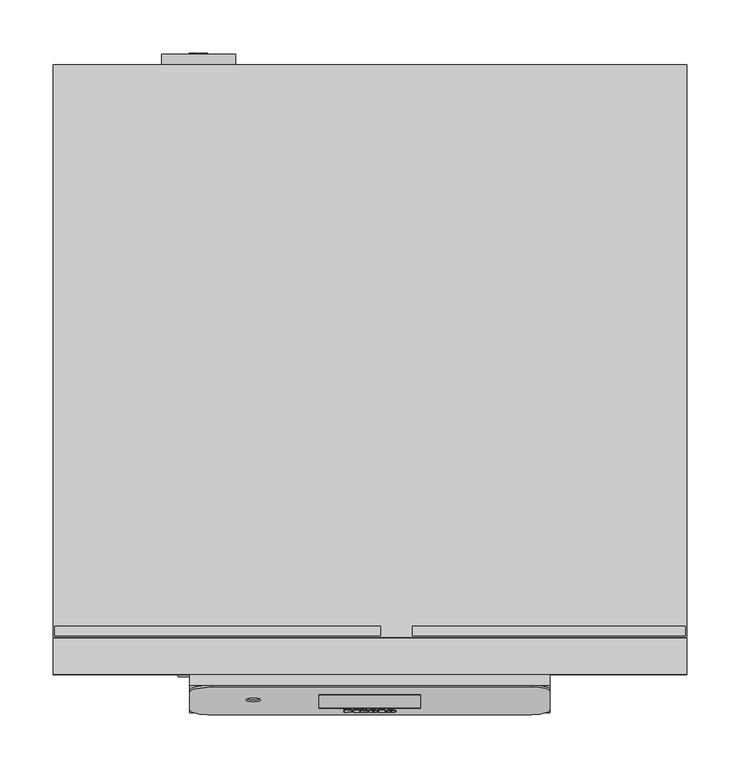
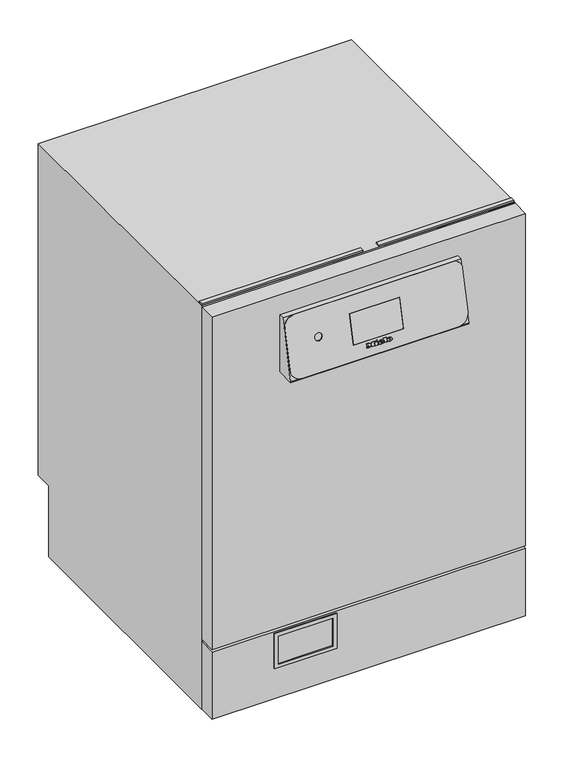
"""IFC4 building model written with IfcOpenShell, lengths in millimetres: proxy geometry, 12065180_DAC_PFD402U_SST : 61040230_DAC_12065180_PFD402U_SST."""

from ifc_helpers import new_model, si_unit, point, frame, frame_2d, origin, origin_with_axes, place, context, project, spatial, polyline, circle_curve, ellipse_curve, trimmed, segment, composite_curve, outline, extrude, source, transform, mapped, element, save
from ifc_brep_helpers import plane_surface, cylinder_surface, revolved_surface, extruded_surface, advanced_brep


def specialty_equipment_acc9bd21(model_context):
    return source(origin(), model_context, "Body", "SolidModel", [
        advanced_brep(
        [(19.2098411, -35.3170778, 679.7116041), (19.2098411, -35.1353173, 680.4988951), (24.5618411, -35.1353173, 680.4988951), (15.2498411, -35.1353173, 680.4988951), (17.4498411, -35.743585, 677.8641985), (24.4258411, -35.3170778, 679.7116041), (22.0098411, -35.3170778, 679.7116041), (20.1058411, -35.5186339, 678.8385685), (19.2098411, -34.9049675, 681.4966501), (19.2098411, -34.7088101, 682.3463008), (20.5778411, -34.7088101, 682.3463008), (20.5778411, -34.9049675, 681.4966501), (19.2098411, -34.3427077, 679.4866531), (20.1058411, -34.5442639, 678.6136175), (22.0098411, -34.3427077, 679.4866531), (24.4258411, -34.3427077, 679.4866531), (17.4498411, -34.7692149, 677.6392474), (15.2498411, -34.1609473, 680.2739441), (24.5618411, -34.1609473, 680.2739441), (19.2098411, -34.1609473, 680.2739441), (19.2098411, -33.9305974, 681.271699), (20.5778411, -33.9305974, 681.271699), (20.5778411, -33.7344401, 682.1213497), (19.2098411, -33.7344401, 682.1213497)],
        [
            (0, 1),
            (1, 2),
            (2, 3, ellipse_curve(frame((19.9058411, -35.1353173, 680.4988951), z_axis=(0.0, -0.9743700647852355, 0.22495105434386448), x_axis=(-1.0, 0.0, 0.0)), 4.656, 3.848)),
            (3, 4, circle_curve(frame((18.3458847, -35.0741307, 680.7639238), z_axis=(0.0, -0.9743700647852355, 0.22495105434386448), x_axis=(0.0, -0.22495105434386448, -0.9743700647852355)), 3.1079688)),
            (4, 5, circle_curve(frame((19.8126347, -34.599034, 682.8217934), z_axis=(0.0, -0.9743700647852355, 0.22495105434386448), x_axis=(0.0, -0.22495105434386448, -0.9743700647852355)), 5.6098607)),
            (5, 6),
            (6, 7, circle_curve(frame((20.4968999, -35.1497142, 680.4365354), z_axis=(0.0, 0.9743700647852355, -0.22495105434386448), x_axis=(0.0, -0.22495105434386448, -0.9743700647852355)), 1.6859795)),
            (7, 0, circle_curve(frame((20.1058411, -35.3170778, 679.7116041), z_axis=(0.0, 0.9743700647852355, -0.22495105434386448), x_axis=(0.0, -0.22495105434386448, -0.9743700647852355)), 0.896)),
            (8, 9),
            (9, 10, circle_curve(frame((19.8938411, -34.7088101, 682.3463008), z_axis=(0.0, 0.9743700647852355, -0.22495105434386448), x_axis=(0.0, -0.22495105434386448, -0.9743700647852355)), 0.684)),
            (10, 11),
            (11, 8),
            (12, 13, circle_curve(frame((20.1058411, -34.3427077, 679.4866531), z_axis=(0.0, -0.9743700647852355, 0.22495105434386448), x_axis=(0.0, -0.22495105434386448, -0.9743700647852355)), 0.896)),
            (13, 14, circle_curve(frame((20.4968999, -34.1753441, 680.2115844), z_axis=(0.0, -0.9743700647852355, 0.22495105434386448), x_axis=(0.0, -0.22495105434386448, -0.9743700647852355)), 1.6859795)),
            (14, 15),
            (15, 16, circle_curve(frame((19.8126347, -33.624664, 682.5968423), z_axis=(0.0, 0.9743700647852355, -0.22495105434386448), x_axis=(0.0, -0.22495105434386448, -0.9743700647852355)), 5.6098607)),
            (16, 17, circle_curve(frame((18.3458847, -34.0997606, 680.5389727), z_axis=(0.0, 0.9743700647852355, -0.22495105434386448), x_axis=(0.0, -0.22495105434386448, -0.9743700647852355)), 3.1079688)),
            (17, 18, ellipse_curve(frame((19.9058411, -34.1609473, 680.2739441), z_axis=(0.0, 0.9743700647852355, -0.22495105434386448), x_axis=(-1.0, 0.0, 0.0)), 4.656, 3.848)),
            (18, 19),
            (19, 12),
            (20, 21),
            (21, 22),
            (22, 23, circle_curve(frame((19.8938411, -33.7344401, 682.1213497), z_axis=(0.0, -0.9743700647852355, 0.22495105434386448), x_axis=(0.0, -0.22495105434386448, -0.9743700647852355)), 0.684)),
            (23, 20),
            (0, 12),
            (19, 1),
            (18, 2),
            (5, 15),
            (14, 6),
            (17, 3),
            (13, 7),
            (16, 4),
            (8, 20),
            (23, 9),
            (22, 10),
            (21, 11),
        ],
        [
            plane_surface(frame((19.2098411, -35.1353173, 680.4988951), z_axis=(0.0, -0.9743700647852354, 0.22495105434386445), x_axis=(0.0, 0.22495105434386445, 0.9743700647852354))),
            plane_surface(frame((19.2098411, -34.1609473, 680.2739441), z_axis=(0.0, 0.9743700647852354, -0.22495105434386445), x_axis=(0.0, -0.22495105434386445, -0.9743700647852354))),
            plane_surface(frame((19.2098411, -35.3170778, 679.7116041), z_axis=(1.0, 0.0, 0.0), x_axis=(0.0, 0.9743700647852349, -0.22495105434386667))),
            plane_surface(frame((19.2098411, -35.1353173, 680.4988951), z_axis=(0.0, -0.22495105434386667, -0.9743700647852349), x_axis=(0.0, 0.9743700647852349, -0.22495105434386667))),
            plane_surface(frame((24.4258411, -35.3170778, 679.7116041), z_axis=(0.0, 0.22495105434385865, 0.9743700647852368), x_axis=(0.0, 0.9743700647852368, -0.22495105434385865))),
            extruded_surface(trimmed(ellipse_curve(frame((19.9058411, -33.1865772, 680.048993), z_axis=(0.0, -0.9743700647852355, 0.22495105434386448), x_axis=(-1.0, 0.0, 0.0)), 4.656, 3.848), [point((24.5618411, -33.1865772, 680.048993))], [point((15.2498411, -33.1865772, 680.048993))], True, "CARTESIAN"), (0.0, -0.9743700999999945, 0.2249510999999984), 1.0000000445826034),
            revolved_surface(polyline([(20.4968999, -34.55460696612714, 678.5688164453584), (20.4968999, -35.52897707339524, 678.7937675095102)]), (20.4968999, -34.1753441, 680.2115844), (0.0, 0.9743700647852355, -0.22495105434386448)),
            revolved_surface(polyline([(20.1058411, -34.544263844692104, 678.6136175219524), (20.1058411, -35.51863393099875, 678.8385685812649)]), (20.1058411, -34.3427077, 679.4866531), (0.0, 0.9743700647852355, -0.22495105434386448)),
            cylinder_surface(frame((18.3458847, -34.0997606, 680.5389727), z_axis=(0.0, -0.9743700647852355, 0.22495105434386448), x_axis=(0.0, -0.22495105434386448, -0.9743700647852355)), 3.1079688),
            cylinder_surface(frame((19.8126347, -33.624664, 682.5968423), z_axis=(0.0, -0.9743700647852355, 0.22495105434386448), x_axis=(0.0, -0.22495105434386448, -0.9743700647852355)), 5.6098607),
            plane_surface(frame((19.2098411, -34.9049675, 681.4966501), z_axis=(1.0, 0.0, 0.0), x_axis=(0.0, 0.9743700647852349, -0.22495105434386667))),
            revolved_surface(polyline([(19.8938411, -33.8883066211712, 681.4548805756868), (19.8938411, -34.8626766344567, 681.6798316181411)]), (19.8938411, -33.7344401, 682.1213497), (0.0, 0.9743700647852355, -0.22495105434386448)),
            plane_surface(frame((20.5778411, -34.7088101, 682.3463008), z_axis=(-1.0, 0.0, 0.0), x_axis=(0.0, 0.9743700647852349, -0.22495105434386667))),
            plane_surface(frame((20.5778411, -34.9049675, 681.4966501), z_axis=(0.0, 0.22495105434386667, 0.9743700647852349), x_axis=(0.0, 0.9743700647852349, -0.22495105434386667))),
        ],
        [
            (0, [[1, 2, 3, 4, 5, 6, 7, 8], [9, 10, 11, 12]]),
            (1, [[13, 14, 15, 16, 17, 18, 19, 20], [21, 22, 23, 24]]),
            (2, [[-1, 25, -20, 26]]),
            (3, [[-2, -26, -19, 27]]),
            (4, [[-6, 28, -15, 29]]),
            (5, [[-3, -27, -18, 30]]),
            (6, [[-7, -29, -14, 31]]),
            (7, [[-8, -31, -13, -25]]),
            (8, [[-4, -30, -17, 32]]),
            (9, [[-5, -32, -16, -28]]),
            (10, [[-9, 33, -24, 34]]),
            (11, [[-10, -34, -23, 35]]),
            (12, [[-11, -35, -22, 36]]),
            (13, [[-12, -36, -21, -33]]),
        ],
    ),
        advanced_brep(
        [(2.5138411, -35.3170778, 679.7116041), (2.5138411, -35.1353173, 680.4988951), (7.8658411, -35.1353173, 680.4988951), (-1.4461589, -35.1353173, 680.4988951), (0.7538411, -35.743585, 677.8641985), (7.7298411, -35.3170778, 679.7116041), (5.3138411, -35.3170778, 679.7116041), (3.4098411, -35.5186339, 678.8385685), (2.5138411, -34.9049675, 681.4966501), (2.5138411, -34.7088101, 682.3463008), (3.8818411, -34.7088101, 682.3463008), (3.8818411, -34.9049675, 681.4966501), (2.5138411, -34.3427077, 679.4866531), (3.4098411, -34.5442639, 678.6136175), (5.3138411, -34.3427077, 679.4866531), (7.7298411, -34.3427077, 679.4866531), (0.7538411, -34.7692149, 677.6392474), (-1.4461589, -34.1609473, 680.2739441), (7.8658411, -34.1609473, 680.2739441), (2.5138411, -34.1609473, 680.2739441), (2.5138411, -33.9305974, 681.271699), (3.8818411, -33.9305974, 681.271699), (3.8818411, -33.7344401, 682.1213497), (2.5138411, -33.7344401, 682.1213497)],
        [
            (0, 1),
            (1, 2),
            (2, 3, ellipse_curve(frame((3.2098411, -35.1353173, 680.4988951), z_axis=(0.0, -0.9743700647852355, 0.22495105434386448), x_axis=(-1.0, 0.0, 0.0)), 4.656, 3.848)),
            (3, 4, circle_curve(frame((1.6498847, -35.0741307, 680.7639238), z_axis=(0.0, -0.9743700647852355, 0.22495105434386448), x_axis=(0.0, -0.22495105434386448, -0.9743700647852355)), 3.1079688)),
            (4, 5, circle_curve(frame((3.1166347, -34.599034, 682.8217934), z_axis=(0.0, -0.9743700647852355, 0.22495105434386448), x_axis=(0.0, -0.22495105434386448, -0.9743700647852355)), 5.6098607)),
            (5, 6),
            (6, 7, circle_curve(frame((3.8008999, -35.1497142, 680.4365354), z_axis=(0.0, 0.9743700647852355, -0.22495105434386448), x_axis=(0.0, -0.22495105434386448, -0.9743700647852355)), 1.6859795)),
            (7, 0, circle_curve(frame((3.4098411, -35.3170778, 679.7116041), z_axis=(0.0, 0.9743700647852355, -0.22495105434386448), x_axis=(0.0, -0.22495105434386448, -0.9743700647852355)), 0.896)),
            (8, 9),
            (9, 10, circle_curve(frame((3.1978411, -34.7088101, 682.3463008), z_axis=(0.0, 0.9743700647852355, -0.22495105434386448), x_axis=(0.0, -0.22495105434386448, -0.9743700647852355)), 0.684)),
            (10, 11),
            (11, 8),
            (12, 13, circle_curve(frame((3.4098411, -34.3427077, 679.4866531), z_axis=(0.0, -0.9743700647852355, 0.22495105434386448), x_axis=(0.0, -0.22495105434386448, -0.9743700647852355)), 0.896)),
            (13, 14, circle_curve(frame((3.8008999, -34.1753441, 680.2115844), z_axis=(0.0, -0.9743700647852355, 0.22495105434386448), x_axis=(0.0, -0.22495105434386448, -0.9743700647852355)), 1.6859795)),
            (14, 15),
            (15, 16, circle_curve(frame((3.1166347, -33.624664, 682.5968423), z_axis=(0.0, 0.9743700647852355, -0.22495105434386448), x_axis=(0.0, -0.22495105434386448, -0.9743700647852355)), 5.6098607)),
            (16, 17, circle_curve(frame((1.6498847, -34.0997606, 680.5389727), z_axis=(0.0, 0.9743700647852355, -0.22495105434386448), x_axis=(0.0, -0.22495105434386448, -0.9743700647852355)), 3.1079688)),
            (17, 18, ellipse_curve(frame((3.2098411, -34.1609473, 680.2739441), z_axis=(0.0, 0.9743700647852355, -0.22495105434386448), x_axis=(-1.0, 0.0, 0.0)), 4.656, 3.848)),
            (18, 19),
            (19, 12),
            (20, 21),
            (21, 22),
            (22, 23, circle_curve(frame((3.1978411, -33.7344401, 682.1213497), z_axis=(0.0, -0.9743700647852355, 0.22495105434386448), x_axis=(0.0, -0.22495105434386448, -0.9743700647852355)), 0.684)),
            (23, 20),
            (0, 12),
            (19, 1),
            (18, 2),
            (5, 15),
            (14, 6),
            (17, 3),
            (13, 7),
            (16, 4),
            (8, 20),
            (23, 9),
            (22, 10),
            (21, 11),
        ],
        [
            plane_surface(frame((2.5138411, -35.1353173, 680.4988951), z_axis=(0.0, -0.9743700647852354, 0.22495105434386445), x_axis=(0.0, 0.22495105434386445, 0.9743700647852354))),
            plane_surface(frame((2.5138411, -34.1609473, 680.2739441), z_axis=(0.0, 0.9743700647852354, -0.22495105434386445), x_axis=(0.0, -0.22495105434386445, -0.9743700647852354))),
            plane_surface(frame((2.5138411, -35.3170778, 679.7116041), z_axis=(1.0000000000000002, 0.0, 0.0), x_axis=(0.0, 0.9743700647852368, -0.22495105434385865))),
            plane_surface(frame((2.5138411, -35.1353173, 680.4988951), z_axis=(0.0, -0.22495105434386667, -0.9743700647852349), x_axis=(0.0, 0.9743700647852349, -0.22495105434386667))),
            plane_surface(frame((7.7298411, -35.3170778, 679.7116041), z_axis=(0.0, 0.22495105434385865, 0.9743700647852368), x_axis=(0.0, 0.9743700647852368, -0.22495105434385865))),
            extruded_surface(trimmed(ellipse_curve(frame((3.2098411, -33.1865772, 680.048993), z_axis=(0.0, -0.9743700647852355, 0.22495105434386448), x_axis=(-1.0, 0.0, 0.0)), 4.656, 3.848), [point((7.8658411, -33.1865772, 680.048993))], [point((-1.4461589, -33.1865772, 680.048993))], True, "CARTESIAN"), (0.0, -0.9743700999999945, 0.2249510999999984), 1.0000000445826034),
            revolved_surface(polyline([(3.8008999, -34.55460696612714, 678.5688164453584), (3.8008999, -35.52897707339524, 678.7937675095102)]), (3.8008999, -34.1753441, 680.2115844), (0.0, 0.9743700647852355, -0.22495105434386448)),
            revolved_surface(polyline([(3.4098411, -34.544263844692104, 678.6136175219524), (3.4098411, -35.51863393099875, 678.8385685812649)]), (3.4098411, -34.3427077, 679.4866531), (0.0, 0.9743700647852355, -0.22495105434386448)),
            cylinder_surface(frame((1.6498847, -34.0997606, 680.5389727), z_axis=(0.0, -0.9743700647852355, 0.22495105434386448), x_axis=(0.0, -0.22495105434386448, -0.9743700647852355)), 3.1079688),
            cylinder_surface(frame((3.1166347, -33.624664, 682.5968423), z_axis=(0.0, -0.9743700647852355, 0.22495105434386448), x_axis=(0.0, -0.22495105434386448, -0.9743700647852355)), 5.6098607),
            plane_surface(frame((2.5138411, -34.9049675, 681.4966501), z_axis=(1.0, 0.0, 0.0), x_axis=(0.0, 0.9743700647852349, -0.22495105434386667))),
            revolved_surface(polyline([(3.1978411, -33.8883066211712, 681.4548805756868), (3.1978411, -34.8626766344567, 681.6798316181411)]), (3.1978411, -33.7344401, 682.1213497), (0.0, 0.9743700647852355, -0.22495105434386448)),
            plane_surface(frame((3.8818411, -34.7088101, 682.3463008), z_axis=(-1.0, 0.0, 0.0), x_axis=(0.0, 0.9743700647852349, -0.22495105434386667))),
            plane_surface(frame((3.8818411, -34.9049675, 681.4966501), z_axis=(0.0, 0.22495105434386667, 0.9743700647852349), x_axis=(0.0, 0.9743700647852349, -0.22495105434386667))),
        ],
        [
            (0, [[1, 2, 3, 4, 5, 6, 7, 8], [9, 10, 11, 12]]),
            (1, [[13, 14, 15, 16, 17, 18, 19, 20], [21, 22, 23, 24]]),
            (2, [[-1, 25, -20, 26]]),
            (3, [[-2, -26, -19, 27]]),
            (4, [[-6, 28, -15, 29]]),
            (5, [[-3, -27, -18, 30]]),
            (6, [[-7, -29, -14, 31]]),
            (7, [[-8, -31, -13, -25]]),
            (8, [[-4, -30, -17, 32]]),
            (9, [[-5, -32, -16, -28]]),
            (10, [[-9, 33, -24, 34]]),
            (11, [[-10, -34, -23, 35]]),
            (12, [[-11, -35, -22, 36]]),
            (13, [[-12, -36, -21, -33]]),
        ],
    ),
        extrude(outline(polyline([(0.0, 0.0), (-0.0109087, -2.9993294), (-1.4390415, -2.9920868), (-1.4315307, 0.0), (0.0, 0.0)])), frame((-6.2301589, -33.0757834, 684.9743053), z_axis=(0.0, -0.9743700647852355, 0.2249510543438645), x_axis=(-0.42472021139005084, 0.20365373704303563, 0.8821212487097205)), (0.0, 0.0, 1.0), 1.0),
        extrude(outline(polyline([(-0.4933908, 2.4141097), (-2.7800844, -2.4601583), (-7.0459742, -0.4588767), (-7.4401146, -1.2990179), (-8.6568709, -0.728194), (-5.9760369, 4.9862153), (-4.7592806, 4.4153913), (-5.1636142, 3.5535222), (-2.1941493, 2.16044), (-1.7898157, 3.022309), (-0.4933908, 2.4141097)])), frame((-6.2301589, -33.0757834, 684.9743053), z_axis=(0.0, -0.9743700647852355, 0.2249510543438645), x_axis=(-0.42472021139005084, 0.20365373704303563, 0.8821212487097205)), (0.0, 0.0, 1.0), 1.0),
        extrude(outline(polyline([(0.0, 0.0), (0.0, -1.3039999), (-5.504, -1.3039999), (-5.504, 5.352), (-6.488, 5.352), (-6.488, 6.696), (0.0, 6.696), (0.0, 5.352), (-0.96, 5.352), (-0.96, 0.0), (0.0, 0.0)])), frame((8.3138411, -33.2629427, 684.1636294), z_axis=(0.0, -0.9743700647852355, 0.22495105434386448), x_axis=(-1.0, 0.0, 0.0)), (0.0, 0.0, 1.0), 1.0),
        extrude(outline(polyline([(0.0, 0.0), (0.0, -1.3039999), (-5.576, -1.3039999), (-7.92, 1.6960001), (-10.256, -1.3039999), (-15.128, -1.3039999), (-15.128, 0.0), (-14.112, 0.0), (-14.112, 5.352), (-15.128, 5.352), (-15.128, 6.696), (-8.744, 6.696), (-8.744, 5.352), (-9.728, 5.352), (-9.728, 1.8807777), (-6.136, 6.696), (-2.56, 1.9488752), (-2.56, 5.352), (-3.52, 5.352), (-3.52, 6.696), (0.0, 6.696), (0.0, 5.352), (-0.968, 5.352), (-0.968, 0.0), (0.0, 0.0)])), frame((-24.1501589, -33.2629427, 684.1636294), z_axis=(0.0, -0.9743700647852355, 0.22495105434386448), x_axis=(-1.0, 0.0, 0.0)), (0.0, 0.0, 1.0), 1.0),
        extrude(outline(polyline([(-0.1038681, 775.5857792), (-0.1038681, 660.0), (-36.1981904, 660.0), (-36.1981904, 662.5588517), (-10.1038681, 775.5857792), (-0.1038681, 775.5857792)])), frame((-169.8831565, 0.0, 0.0), z_axis=(1.0, 0.0, 0.0), x_axis=(0.0, 1.0, 0.0)), (0.0, 0.0, 1.0), 339.766313),
        extrude(outline(polyline([(137.0, -180.8556958), (66.1019991, -180.8556958), (66.1019991, -62.1493684), (137.0, -62.1493684), (137.0, -180.8556958)]), holes=[polyline([(129.5988213, -69.1491757), (73.0575068, -69.1491757), (73.0575068, -173.1990884), (129.5988213, -173.1990884), (129.5988213, -69.1491757)])]), frame((0.0, -2.0, 0.0), z_axis=(0.0, 1.0, 0.0), x_axis=(0.0, 0.0, 1.0)), (0.0, 0.0, 1.0), 2.0),
        extrude(outline(polyline([(299.0, 34.0), (299.0, 0.0), (-299.0, 0.0), (-299.0, 34.0), (299.0, 34.0)])), frame((0.0, 0.0, 4.5), z_axis=(0.0, 0.0, 1.0), x_axis=(1.0, 0.0, 0.0)), (0.0, 0.0, 1.0), 135.5),
        extrude(outline(polyline([(299.0, 34.0), (299.0, 0.0), (-299.0, 0.0), (-299.0, 34.0), (299.0, 34.0)])), frame((0.0, 0.0, 145.0), z_axis=(0.0, 0.0, 1.0), x_axis=(1.0, 0.0, 0.0)), (0.0, 0.0, 1.0), 670.0),
        advanced_brep(
        [(153.3281651, -12.0526082, 776.0356813), (-148.8831565, -12.0526082, 776.0356813), (-169.8831565, -16.7765804, 755.57391), (-169.8831565, -33.4229584, 683.4705252), (-148.8831565, -38.1469305, 663.0087538), (148.8831565, -38.1469305, 663.0087538), (169.8831565, -33.4229584, 683.4705252), (169.8831565, -15.776671, 759.9049933), (-102.8831565, -24.0088923, 724.2473253), (-116.8831565, -24.0088923, 724.2473253), (48.0, -18.9868916, 746.0), (48.0, -31.9155103, 690.0), (-48.0, -31.9155103, 690.0), (-48.0, -18.9868916, 746.0), (153.3281651, -10.1038681, 775.5857792), (169.8831565, -13.8279308, 759.4550912), (169.8831565, -31.4742182, 683.0206231), (148.8831565, -36.1981904, 662.5588517), (-148.8831565, -36.1981904, 662.5588517), (-169.8831565, -31.4742182, 683.0206231), (-169.8831565, -14.8278402, 755.1240079), (-148.8831565, -10.1038681, 775.5857792), (48.0, -29.8629021, 690.0), (48.0, -16.9342834, 746.0), (-48.0, -16.9342834, 746.0), (-48.0, -29.8629021, 690.0), (-116.8831565, -22.4281396, 723.8823798), (-102.8831565, -22.4281396, 723.8823798)],
        [
            (0, 1),
            (1, 2, circle_curve(frame((-148.8831565, -16.7765804, 755.57391), z_axis=(0.0, -0.9743700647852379, 0.22495105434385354), x_axis=(1.0, 0.0, 0.0)), 21.0)),
            (2, 3),
            (3, 4, circle_curve(frame((-148.8831565, -33.4229584, 683.4705252), z_axis=(0.0, -0.9743700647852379, 0.22495105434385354), x_axis=(1.0, 0.0, 0.0)), 21.0)),
            (4, 5),
            (5, 6, circle_curve(frame((148.8831565, -33.4229584, 683.4705252), z_axis=(0.0, -0.9743700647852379, 0.22495105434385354), x_axis=(1.0, 0.0, 0.0)), 21.0)),
            (6, 7),
            (7, 0, circle_curve(frame((153.3281651, -15.776671, 759.9049933), z_axis=(0.0, -0.9743700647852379, 0.22495105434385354), x_axis=(1.0, 0.0, 0.0)), 16.5549913)),
            (8, 9, circle_curve(frame((-109.8831565, -24.0088923, 724.2473253), z_axis=(0.0, 0.9743700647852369, -0.22495105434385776), x_axis=(1.0, 0.0, 0.0)), 7.0)),
            (9, 8, circle_curve(frame((-109.8831565, -24.0088923, 724.2473253), z_axis=(0.0, 0.9743700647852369, -0.22495105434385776), x_axis=(1.0, 0.0, 0.0)), 7.0)),
            (10, 11),
            (11, 12),
            (12, 13),
            (13, 10),
            (14, 15, circle_curve(frame((153.3281651, -13.8279308, 759.4550912), z_axis=(0.0, 0.9743700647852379, -0.22495105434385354), x_axis=(1.0, 0.0, 0.0)), 16.5549913)),
            (15, 16),
            (16, 17, circle_curve(frame((148.8831565, -31.4742182, 683.0206231), z_axis=(0.0, 0.9743700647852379, -0.22495105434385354), x_axis=(1.0, 0.0, 0.0)), 21.0)),
            (17, 18),
            (18, 19, circle_curve(frame((-148.8831565, -31.4742182, 683.0206231), z_axis=(0.0, 0.9743700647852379, -0.22495105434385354), x_axis=(1.0, 0.0, 0.0)), 21.0)),
            (19, 20),
            (20, 21, circle_curve(frame((-148.8831565, -14.8278402, 755.1240079), z_axis=(0.0, 0.9743700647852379, -0.22495105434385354), x_axis=(1.0, 0.0, 0.0)), 21.0)),
            (21, 14),
            (22, 23),
            (23, 24),
            (24, 25),
            (25, 22),
            (0, 14),
            (21, 1),
            (20, 2),
            (19, 3),
            (18, 4),
            (17, 5),
            (16, 6),
            (15, 7),
            (26, 27, circle_curve(frame((-109.8831565, -22.4281396, 723.8823798), z_axis=(0.0, -0.9743700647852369, 0.22495105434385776), x_axis=(1.0, 0.0, 0.0)), 7.0)),
            (27, 26, circle_curve(frame((-109.8831565, -22.4281396, 723.8823798), z_axis=(0.0, -0.9743700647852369, 0.22495105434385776), x_axis=(1.0, 0.0, 0.0)), 7.0)),
            (26, 9),
            (8, 27),
            (12, 25),
            (24, 13),
            (10, 23),
            (22, 11),
        ],
        [
            plane_surface(frame((-166.8819453, -12.0526082, 776.0356813), z_axis=(0.0, -0.9743700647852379, 0.22495105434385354), x_axis=(-1.0, 0.0, 0.0))),
            plane_surface(frame((-166.8819453, -10.1038681, 775.5857792), z_axis=(0.0, 0.9743700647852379, -0.22495105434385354), x_axis=(1.0, 0.0, 0.0))),
            plane_surface(frame((153.3281651, -12.0526082, 776.0356813), z_axis=(0.0, 0.22495105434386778, 0.9743700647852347), x_axis=(0.0, 0.9743700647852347, -0.22495105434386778))),
            cylinder_surface(frame((-148.8831565, -14.8278402, 755.1240079), z_axis=(0.0, -0.9743700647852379, 0.22495105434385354), x_axis=(1.0, 0.0, 0.0)), 21.0),
            plane_surface(frame((-169.8831565, -16.7765804, 755.57391), z_axis=(-1.0, 0.0, 0.0), x_axis=(0.0, 0.9743700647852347, -0.22495105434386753))),
            cylinder_surface(frame((-148.8831565, -31.4742182, 683.0206231), z_axis=(0.0, -0.9743700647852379, 0.22495105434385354), x_axis=(1.0, 0.0, 0.0)), 21.0),
            plane_surface(frame((-148.8831565, -38.1469305, 663.0087538), z_axis=(0.0, -0.22495105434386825, -0.9743700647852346), x_axis=(0.0, 0.9743700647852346, -0.22495105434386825))),
            cylinder_surface(frame((148.8831565, -31.4742182, 683.0206231), z_axis=(0.0, -0.9743700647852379, 0.22495105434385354), x_axis=(1.0, 0.0, 0.0)), 21.0),
            plane_surface(frame((169.8831565, -33.4229584, 683.4705252), z_axis=(1.0000000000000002, 0.0, 0.0), x_axis=(0.0, 0.9743700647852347, -0.22495105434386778))),
            cylinder_surface(frame((153.3281651, -13.8279308, 759.4550912), z_axis=(0.0, -0.9743700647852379, 0.22495105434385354), x_axis=(1.0, 0.0, 0.0)), 16.5549913),
            plane_surface(frame((-102.8831565, -22.4281396, 723.8823798), z_axis=(0.0, -0.9743700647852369, 0.2249510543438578), x_axis=(0.0, -0.2249510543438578, -0.9743700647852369))),
            revolved_surface(polyline([(-102.8831565, -24.008892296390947, 724.2473253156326), (-102.8831565, -22.4281396, 723.8823798)]), (-109.8831565, -22.4281396, 723.8823798), (0.0, -0.9743700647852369, 0.22495105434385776)),
            plane_surface(frame((-48.0, -31.9155103, 690.0), z_axis=(1.0, 0.0, 0.0), x_axis=(0.0, -1.0, 0.0))),
            plane_surface(frame((48.0, -31.9155103, 690.0), z_axis=(-1.0, 0.0, 0.0), x_axis=(0.0, 1.0, 0.0))),
            plane_surface(frame((48.0, -31.9155103, 690.0), z_axis=(0.0, 0.0, 1.0), x_axis=(-1.0, 0.0, 0.0))),
            plane_surface(frame((48.0, -16.9342834, 746.0), z_axis=(0.0, 0.0, -1.0), x_axis=(-1.0, 0.0, 0.0))),
        ],
        [
            (0, [[1, 2, 3, 4, 5, 6, 7, 8], [9, 10], [11, 12, 13, 14]]),
            (1, [[15, 16, 17, 18, 19, 20, 21, 22], [23, 24, 25, 26]]),
            (2, [[-1, 27, -22, 28]]),
            (3, [[-2, -28, -21, 29]]),
            (4, [[-3, -29, -20, 30]]),
            (5, [[-4, -30, -19, 31]]),
            (6, [[-5, -31, -18, 32]]),
            (7, [[-6, -32, -17, 33]]),
            (8, [[-7, -33, -16, 34]]),
            (9, [[-8, -34, -15, -27]]),
            (10, [[35, 36]]),
            (11, [[-35, 37, -9, 38]]),
            (11, [[-36, -38, -10, -37]]),
            (12, [[39, -25, 40, -13]]),
            (13, [[41, -23, 42, -11]]),
            (14, [[-42, -26, -39, -12]]),
            (15, [[-41, -14, -40, -24]]),
        ],
    ),
        extrude(outline(polyline([(-29.8629021, 690.0), (-31.9155103, 690.0), (-18.9868916, 746.0), (-16.9342834, 746.0), (-29.8629021, 690.0)])), frame((-48.0, 0.0, 0.0), z_axis=(1.0, 0.0, 0.0), x_axis=(0.0, 1.0, 0.0)), (0.0, 0.0, 1.0), 96.0),
        extrude(outline(polyline([(297.9027562, 45.259625), (297.9027562, 36.259625), (40.425123, 36.259625), (40.425123, 45.259625), (297.9027562, 45.259625)])), frame((0.0, 0.0, 817.0), z_axis=(0.0, 0.0, 1.0), x_axis=(1.0, 0.0, 0.0)), (0.0, 0.0, 1.0), 3.0),
        extrude(outline(polyline([(10.1158911, 45.259625), (10.1158911, 36.259625), (-297.5390632, 36.259625), (-297.5390632, 45.259625), (10.1158911, 45.259625)])), frame((0.0, 0.0, 817.0), z_axis=(0.0, 0.0, 1.0), x_axis=(1.0, 0.0, 0.0)), (0.0, 0.0, 1.0), 3.0),
        extrude(outline(polyline([(35.0, 817.0), (575.0, 817.0), (575.0, 148.0), (541.0, 148.0), (541.0, 4.2000122), (35.0, 4.2000122), (35.0, 817.0)])), frame((-299.0, 0.0, 0.0), z_axis=(1.0, 0.0, 0.0), x_axis=(0.0, 1.0, 0.0)), (0.0, 0.0, 1.0), 598.0),
        extrude(outline(polyline([(-172.0947306, 541.0), (-252.9150967, 541.0), (-252.9150967, 546.8796322), (-172.0947306, 546.8796322), (-172.0947306, 541.0)])), frame((0.0, 0.0, 83.2113443), z_axis=(0.0, 0.0, 1.0), x_axis=(1.0, 0.0, 0.0)), (0.0, 0.0, 1.0), 9.5402229),
        extrude(outline(polyline([(-172.0947306, 541.0), (-252.9150967, 541.0), (-252.9150967, 546.8796322), (-172.0947306, 546.8796322), (-172.0947306, 541.0)])), frame((0.0, 0.0, 49.1113767), z_axis=(0.0, 0.0, 1.0), x_axis=(1.0, 0.0, 0.0)), (0.0, 0.0, 1.0), 11.5700235),
        extrude(outline(polyline([(-172.0947306, 541.0), (-252.9150967, 541.0), (-252.9150967, 546.8796322), (-172.0947306, 546.8796322), (-172.0947306, 541.0)])), frame((0.0, 0.0, 67.2113431), z_axis=(0.0, 0.0, 1.0), x_axis=(1.0, 0.0, 0.0)), (0.0, 0.0, 1.0), 9.5826234),
        extrude(outline(polyline([(70.6242327, 186.565003), (80.6698637, 186.565003), (80.6698637, 179.3447057), (79.4141598, 179.3447057), (79.4141598, 185.3092991), (76.4318631, 185.3092991), (76.4318631, 179.6586317), (75.1761592, 179.6586317), (75.1761592, 185.3092991), (71.8799366, 185.3092991), (71.8799366, 179.1877427), (70.6242327, 179.1877427), (70.6242327, 186.565003)])), frame((0.0, 571.0, 0.0), z_axis=(0.0, 1.0, 0.0), x_axis=(0.0, 0.0, 1.0)), (0.0, 0.0, 1.0), 1.0),
        extrude(outline(polyline([(70.6242327, 177.3041869), (80.6698637, 177.3041869), (80.6698637, 176.048483), (71.8799366, 176.048483), (71.8799366, 171.0256675), (70.6242327, 171.0256675), (70.6242327, 177.3041869)])), frame((0.0, 571.0, 0.0), z_axis=(0.0, 1.0, 0.0), x_axis=(0.0, 0.0, 1.0)), (0.0, 0.0, 1.0), 1.0),
        extrude(outline(polyline([(46.0, 96.7862239), (56.045631, 92.7763102), (56.045631, 91.7069998), (46.0, 87.6970861), (46.0, 89.0239138), (49.1392597, 90.1741582), (49.1392597, 94.3116044), (46.0, 95.4593962), (46.0, 96.7862239)]), holes=[polyline([(50.3949636, 93.8505256), (50.3949636, 90.6327844), (52.864678, 91.5377741), (54.7899271, 92.241655), (53.0805021, 92.8670544), (50.3949636, 93.8505256)])]), frame((0.0, 571.0, 0.0), z_axis=(0.0, 1.0, 0.0), x_axis=(0.0, 0.0, 1.0)), (0.0, 0.0, 1.0), 1.0),
        extrude(outline(polyline([(46.0, 84.5578264), (56.045631, 87.297321), (56.045631, 86.0023764), (49.4433755, 84.4131261), (47.4053092, 83.9226168), (49.207931, 83.3977718), (56.045631, 81.406304), (56.045631, 79.539916), (51.0890343, 78.0929135), (47.4053092, 77.0162455), (49.3845144, 76.5404514), (56.045631, 74.936486), (56.045631, 73.6415413), (46.0, 76.3834885), (46.0, 77.7250315), (53.7500474, 80.1334323), (54.8316204, 80.4694312), (53.5293182, 80.8471233), (46.0, 83.0421526), (46.0, 84.5578264)])), frame((0.0, 571.0, 0.0), z_axis=(0.0, 1.0, 0.0), x_axis=(0.0, 0.0, 1.0)), (0.0, 0.0, 1.0), 1.0),
        extrude(outline(composite_curve([segment(trimmed(circle_curve(frame_2d((51.0, 85.0998392)), 8.0), [point((51.0, 77.0998392))], [point((51.0, 93.0998392))], False, "CARTESIAN"), True, "CONTINUOUS"), segment(trimmed(circle_curve(frame_2d((51.0, 85.0998392)), 8.0), [point((51.0, 93.0998392))], [point((51.0, 77.0998392))], False, "CARTESIAN"), True, "CONTINUOUS")], self_intersect=False)), frame((0.0, 541.0, 0.0), z_axis=(0.0, 1.0, 0.0), x_axis=(0.0, 0.0, 1.0)), (0.0, 0.0, 1.0), 30.0),
        extrude(outline(polyline([(94.6239875, 133.557834), (104.6696185, 136.2973286), (104.6696185, 135.002384), (98.067363, 133.4131338), (96.0292967, 132.9226244), (97.8319185, 132.3977795), (104.6696185, 130.4063116), (104.6696185, 128.5399236), (99.7130218, 127.0929211), (96.0292967, 126.0162531), (98.0085019, 125.5404591), (104.6696185, 123.9364936), (104.6696185, 122.641549), (94.6239875, 125.3834961), (94.6239875, 126.7250391), (102.3740349, 129.1334399), (103.4556079, 129.4694388), (102.1533057, 129.847131), (94.6239875, 132.0421602), (94.6239875, 133.557834)])), frame((0.0, 571.0, 0.0), z_axis=(0.0, 1.0, 0.0), x_axis=(0.0, 0.0, 1.0)), (0.0, 0.0, 1.0), 1.0),
        extrude(outline(polyline([(94.6239875, 144.6163668), (104.6696185, 144.6163668), (104.6696185, 143.3606629), (99.7522625, 143.3606629), (104.6696185, 138.210315), (104.6696185, 136.4542916), (100.53953, 140.7781313), (94.6239875, 136.2973286), (94.6239875, 137.8326228), (99.6909489, 141.6684057), (98.0771732, 143.3606629), (94.6239875, 143.3606629), (94.6239875, 144.6163668)])), frame((0.0, 571.0, 0.0), z_axis=(0.0, 1.0, 0.0), x_axis=(0.0, 0.0, 1.0)), (0.0, 0.0, 1.0), 1.0),
        extrude(outline(polyline([(118.1398187, 18.2077062), (128.1854497, 18.2077062), (128.1854497, 14.7422578), (128.0407495, 12.9494462), (127.3221533, 11.4730132), (125.6053707, 10.283528), (123.2165903, 9.888668), (121.1895605, 10.1559956), (119.7266164, 10.8427087), (118.8154953, 11.7599611), (118.311497, 12.9604827), (118.1398187, 14.5754846), (118.1398187, 18.2077062)]), holes=[polyline([(119.3955226, 16.9520023), (119.3955226, 14.7299951), (119.5770111, 13.1137669), (120.0895933, 12.1817991), (121.3367133, 11.4178309), (123.2362106, 11.1443719), (125.6151809, 11.6802533), (126.728637, 12.9837819), (126.9297459, 14.7643307), (126.9297459, 16.9520023), (119.3955226, 16.9520023)])]), frame((0.0, 571.0, 0.0), z_axis=(0.0, 1.0, 0.0), x_axis=(0.0, 0.0, 1.0)), (0.0, 0.0, 1.0), 1.0),
        extrude(outline(polyline([(121.5930044, 8.6329642), (121.5930044, 7.3772603), (120.3360742, 6.9725901), (119.5414491, 5.9842138), (119.2385596, 4.4783502), (119.4678727, 3.1662377), (120.0981772, 2.3188828), (120.940627, 2.0405188), (121.7242156, 2.2489853), (122.2944327, 3.1024715), (122.7739056, 4.930845), (123.3931736, 6.8990137), (124.3275939, 7.9670977), (125.5759401, 8.3190382), (126.9971909, 7.8837112), (128.0002825, 6.6120657), (128.3424127, 4.7505828), (127.9843409, 2.7640201), (126.9321984, 1.4396449), (125.360116, 0.9417779), (125.360116, 2.1974818), (126.6501555, 2.9087203), (127.0867088, 4.7015319), (126.6550606, 6.4992486), (125.6127283, 7.0633343), (124.7420743, 6.6635692), (124.0406459, 4.6132402), (123.4103414, 2.391233), (122.3925346, 1.1759961), (120.9725101, 0.7848149), (119.4703253, 1.2348572), (118.3740369, 2.5298019), (117.9828557, 4.4292992), (118.4046938, 6.6721531), (119.6751129, 8.0909513), (121.5930044, 8.6329642)])), frame((0.0, 571.0, 0.0), z_axis=(0.0, 1.0, 0.0), x_axis=(0.0, 0.0, 1.0)), (0.0, 0.0, 1.0), 1.0),
        extrude(outline(composite_curve([segment(trimmed(circle_curve(frame_2d((126.8499756, 10.1811127)), 2.9851521), [point((126.8499756, 7.1959606))], [point((126.8499756, 13.1662647))], False, "CARTESIAN"), True, "CONTINUOUS"), segment(trimmed(circle_curve(frame_2d((126.8499756, 10.1811127)), 2.9851521), [point((126.8499756, 13.1662647))], [point((126.8499756, 7.1959606))], False, "CARTESIAN"), True, "CONTINUOUS")], self_intersect=False)), frame((0.0, 541.0, 0.0), z_axis=(0.0, 1.0, 0.0), x_axis=(0.0, 0.0, 1.0)), (0.0, 0.0, 1.0), 30.0),
        extrude(outline(composite_curve([segment(trimmed(circle_curve(frame_2d((117.0999756, 10.1811127)), 3.0), [point((117.0999756, 7.1811127))], [point((117.0999756, 13.1811127))], False, "CARTESIAN"), True, "CONTINUOUS"), segment(trimmed(circle_curve(frame_2d((117.0999756, 10.1811127)), 3.0), [point((117.0999756, 13.1811127))], [point((117.0999756, 7.1811127))], False, "CARTESIAN"), True, "CONTINUOUS")], self_intersect=False)), frame((0.0, 541.0, 0.0), z_axis=(0.0, 1.0, 0.0), x_axis=(0.0, 0.0, 1.0)), (0.0, 0.0, 1.0), 30.0),
        extrude(outline(composite_curve([segment(trimmed(circle_curve(frame_2d((107.3499443, 10.1811127)), 3.0), [point((107.3499443, 7.1811127))], [point((107.3499443, 13.1811127))], False, "CARTESIAN"), True, "CONTINUOUS"), segment(trimmed(circle_curve(frame_2d((107.3499443, 10.1811127)), 3.0), [point((107.3499443, 13.1811127))], [point((107.3499443, 7.1811127))], False, "CARTESIAN"), True, "CONTINUOUS")], self_intersect=False)), frame((0.0, 541.0, 0.0), z_axis=(0.0, 1.0, 0.0), x_axis=(0.0, 0.0, 1.0)), (0.0, 0.0, 1.0), 30.0),
        extrude(outline(composite_curve([segment(trimmed(circle_curve(frame_2d((136.5999756, 10.1811127)), 3.0), [point((136.5999756, 7.1811127))], [point((136.5999756, 13.1811127))], False, "CARTESIAN"), True, "CONTINUOUS"), segment(trimmed(circle_curve(frame_2d((136.5999756, 10.1811127)), 3.0), [point((136.5999756, 13.1811127))], [point((136.5999756, 7.1811127))], False, "CARTESIAN"), True, "CONTINUOUS")], self_intersect=False)), frame((0.0, 541.0, 0.0), z_axis=(0.0, 1.0, 0.0), x_axis=(0.0, 0.0, 1.0)), (0.0, 0.0, 1.0), 30.0),
        extrude(outline(polyline([(99.6239875, 19.6811122), (148.0, 19.6811122), (148.0, 1.1811127), (99.6239875, 1.1811127), (99.6239875, 19.6811122)]), holes=[polyline([(100.6239875, 18.6811122), (100.6239875, 2.1811127), (147.0, 2.1811127), (147.0, 18.6811122), (100.6239875, 18.6811122)])]), frame((0.0, 541.0, 0.0), z_axis=(0.0, 1.0, 0.0), x_axis=(0.0, 0.0, 1.0)), (0.0, 0.0, 1.0), 1.0),
        extrude(outline(polyline([(41.5900269, 145.1730949), (51.6356579, 147.9125895), (51.6356579, 146.6176449), (45.0334023, 145.0283946), (42.9953361, 144.5378853), (44.7979579, 144.0130403), (51.6356579, 142.0215725), (51.6356579, 140.1551845), (46.6790611, 138.708182), (42.9953361, 137.631514), (44.9745412, 137.1557199), (51.6356579, 135.5517544), (51.6356579, 134.2568098), (41.5900269, 136.998757), (41.5900269, 138.3403), (49.3400742, 140.7487008), (50.4216473, 141.0846996), (49.119345, 141.4623918), (41.5900269, 143.6574211), (41.5900269, 145.1730949)])), frame((0.0, 571.0, 0.0), z_axis=(0.0, 1.0, 0.0), x_axis=(0.0, 0.0, 1.0)), (0.0, 0.0, 1.0), 1.0),
        extrude(outline(polyline([(41.5900269, 131.2033893), (51.6356579, 133.9428838), (51.6356579, 132.6479392), (45.0334023, 131.058689), (42.9953361, 130.5681797), (44.7979579, 130.0433347), (51.6356579, 128.0518668), (51.6356579, 126.1854788), (46.6790611, 124.7384763), (42.9953361, 123.6618084), (44.9745412, 123.1860143), (51.6356579, 121.5820488), (51.6356579, 120.2871042), (41.5900269, 123.0290513), (41.5900269, 124.3705943), (49.3400742, 126.7789951), (50.4216473, 127.114994), (49.119345, 127.4926862), (41.5900269, 129.6877154), (41.5900269, 131.2033893)])), frame((0.0, 571.0, 0.0), z_axis=(0.0, 1.0, 0.0), x_axis=(0.0, 0.0, 1.0)), (0.0, 0.0, 1.0), 1.0),
        extrude(outline(composite_curve([segment(trimmed(circle_curve(frame_2d((46.5900269, 134.0998468)), 8.0), [point((46.5900269, 126.0998468))], [point((46.5900269, 142.0998468))], False, "CARTESIAN"), True, "CONTINUOUS"), segment(trimmed(circle_curve(frame_2d((46.5900269, 134.0998468)), 8.0), [point((46.5900269, 142.0998468))], [point((46.5900269, 126.0998468))], False, "CARTESIAN"), True, "CONTINUOUS")], self_intersect=False)), frame((0.0, 541.0, 0.0), z_axis=(0.0, 1.0, 0.0), x_axis=(0.0, 0.0, 1.0)), (0.0, 0.0, 1.0), 30.0),
        extrude(outline(polyline([(118.1398187, -7.1235653), (128.1854497, -7.1235653), (128.1854497, -10.5890137), (128.0407495, -12.3818253), (127.3221533, -13.8582584), (125.6053707, -15.0477435), (123.2165903, -15.4426035), (121.1895605, -15.1752759), (119.7266164, -14.4885629), (118.8154953, -13.5713104), (118.311497, -12.3707889), (118.1398187, -10.7557869), (118.1398187, -7.1235653)]), holes=[polyline([(119.3955226, -8.3792692), (119.3955226, -10.6012765), (119.5770111, -12.2175047), (120.0895933, -13.1494724), (121.3367133, -13.9134407), (123.2362106, -14.1868996), (125.6151809, -13.6510182), (126.728637, -12.3474897), (126.9297459, -10.5669408), (126.9297459, -8.3792692), (119.3955226, -8.3792692)])]), frame((0.0, 571.0, 0.0), z_axis=(0.0, 1.0, 0.0), x_axis=(0.0, 0.0, 1.0)), (0.0, 0.0, 1.0), 1.0),
        extrude(outline(polyline([(121.5930044, -16.6983074), (121.5930044, -17.9540113), (120.3360742, -18.3586815), (119.5414491, -19.3470578), (119.2385596, -20.8529214), (119.4678727, -22.1650338), (120.0981772, -23.0123887), (120.940627, -23.2907528), (121.7242156, -23.0822863), (122.2944327, -22.2288001), (122.7739056, -20.4004265), (123.3931736, -18.4322579), (124.3275939, -17.3641738), (125.5759401, -17.0122334), (126.9971909, -17.4475604), (128.0002825, -18.7192058), (128.3424127, -20.5806887), (127.9843409, -22.5672515), (126.9321984, -23.8916267), (125.360116, -24.3894936), (125.360116, -23.1337898), (126.6501555, -22.4225512), (127.0867088, -20.6297397), (126.6550606, -18.832023), (125.6127283, -18.2679372), (124.7420743, -18.6677023), (124.0406459, -20.7180313), (123.4103414, -22.9400386), (122.3925346, -24.1552754), (120.9725101, -24.5464566), (119.4703253, -24.0964143), (118.3740369, -22.8014697), (117.9828557, -20.9019723), (118.4046938, -18.6591184), (119.6751129, -17.2403202), (121.5930044, -16.6983074)])), frame((0.0, 571.0, 0.0), z_axis=(0.0, 1.0, 0.0), x_axis=(0.0, 0.0, 1.0)), (0.0, 0.0, 1.0), 1.0),
        extrude(outline(composite_curve([segment(trimmed(circle_curve(frame_2d((126.8499756, -15.1501589)), 2.9851521), [point((126.8499756, -18.135311))], [point((126.8499756, -12.1650068))], False, "CARTESIAN"), True, "CONTINUOUS"), segment(trimmed(circle_curve(frame_2d((126.8499756, -15.1501589)), 2.9851521), [point((126.8499756, -12.1650068))], [point((126.8499756, -18.135311))], False, "CARTESIAN"), True, "CONTINUOUS")], self_intersect=False)), frame((0.0, 541.0, 0.0), z_axis=(0.0, 1.0, 0.0), x_axis=(0.0, 0.0, 1.0)), (0.0, 0.0, 1.0), 30.0),
        extrude(outline(composite_curve([segment(trimmed(circle_curve(frame_2d((117.0999756, -15.1501589)), 3.0), [point((117.0999756, -18.1501589))], [point((117.0999756, -12.1501589))], False, "CARTESIAN"), True, "CONTINUOUS"), segment(trimmed(circle_curve(frame_2d((117.0999756, -15.1501589)), 3.0), [point((117.0999756, -12.1501589))], [point((117.0999756, -18.1501589))], False, "CARTESIAN"), True, "CONTINUOUS")], self_intersect=False)), frame((0.0, 541.0, 0.0), z_axis=(0.0, 1.0, 0.0), x_axis=(0.0, 0.0, 1.0)), (0.0, 0.0, 1.0), 30.0),
        extrude(outline(composite_curve([segment(trimmed(circle_curve(frame_2d((107.3499443, -15.1501589)), 3.0), [point((107.3499443, -18.1501589))], [point((107.3499443, -12.1501589))], False, "CARTESIAN"), True, "CONTINUOUS"), segment(trimmed(circle_curve(frame_2d((107.3499443, -15.1501589)), 3.0), [point((107.3499443, -12.1501589))], [point((107.3499443, -18.1501589))], False, "CARTESIAN"), True, "CONTINUOUS")], self_intersect=False)), frame((0.0, 541.0, 0.0), z_axis=(0.0, 1.0, 0.0), x_axis=(0.0, 0.0, 1.0)), (0.0, 0.0, 1.0), 30.0),
        extrude(outline(composite_curve([segment(trimmed(circle_curve(frame_2d((136.5999756, -15.1501589)), 3.0), [point((136.5999756, -18.1501589))], [point((136.5999756, -12.1501589))], False, "CARTESIAN"), True, "CONTINUOUS"), segment(trimmed(circle_curve(frame_2d((136.5999756, -15.1501589)), 3.0), [point((136.5999756, -12.1501589))], [point((136.5999756, -18.1501589))], False, "CARTESIAN"), True, "CONTINUOUS")], self_intersect=False)), frame((0.0, 541.0, 0.0), z_axis=(0.0, 1.0, 0.0), x_axis=(0.0, 0.0, 1.0)), (0.0, 0.0, 1.0), 30.0),
        extrude(outline(polyline([(99.6239875, -5.6501594), (148.0, -5.6501594), (148.0, -24.1501589), (99.6239875, -24.1501589), (99.6239875, -5.6501594)]), holes=[polyline([(100.6239875, -6.6501594), (100.6239875, -23.1501589), (147.0, -23.1501589), (147.0, -6.6501594), (100.6239875, -6.6501594)])]), frame((0.0, 541.0, 0.0), z_axis=(0.0, 1.0, 0.0), x_axis=(0.0, 0.0, 1.0)), (0.0, 0.0, 1.0), 1.0),
        extrude(outline(polyline([(294.0108337, -153.1353281), (304.0564648, -153.1353281), (304.0564648, -156.6007765), (303.9117645, -158.3935881), (303.1931683, -159.8700212), (301.4763857, -161.0595063), (299.0876053, -161.4543663), (297.0605755, -161.1870387), (295.5976314, -160.5003256), (294.6865103, -159.5830732), (294.182512, -158.3825516), (294.0108337, -156.7675497), (294.0108337, -153.1353281)]), holes=[polyline([(295.2665376, -154.391032), (295.2665376, -156.6130392), (295.4480261, -158.2292675), (295.9606083, -159.1612352), (297.2077283, -159.9252035), (299.1072256, -160.1986624), (301.4861959, -159.662781), (302.5996521, -158.3592524), (302.8007609, -156.5787036), (302.8007609, -154.391032), (295.2665376, -154.391032)])]), frame((0.0, 585.0, 0.0), z_axis=(0.0, 1.0, 0.0), x_axis=(0.0, 0.0, 1.0)), (0.0, 0.0, 1.0), 1.0),
        extrude(outline(polyline([(297.4640194, -162.7100702), (297.4640194, -163.965774), (296.2070893, -164.3704442), (295.4124641, -165.3588205), (295.1095746, -166.8646842), (295.3388877, -168.1767966), (295.9691922, -169.0241515), (296.811642, -169.3025155), (297.5952306, -169.094049), (298.1654477, -168.2405628), (298.6449206, -166.4121893), (299.2641886, -164.4440206), (300.1986089, -163.3759366), (301.4469551, -163.0239961), (302.8682059, -163.4593232), (303.8712975, -164.7309686), (304.2134277, -166.5924515), (303.8553559, -168.5790143), (302.8032134, -169.9033894), (301.231131, -170.4012564), (301.231131, -169.1455525), (302.5211706, -168.434314), (302.9577239, -166.6415024), (302.5260757, -164.8437857), (301.4837433, -164.2797), (300.6130893, -164.6794651), (299.9116609, -166.7297941), (299.2813565, -168.9518013), (298.2635496, -170.1670382), (296.8435251, -170.5582194), (295.3413403, -170.1081771), (294.2450519, -168.8132325), (293.8538708, -166.9137351), (294.2757088, -164.6708812), (295.5461279, -163.252083), (297.4640194, -162.7100702)])), frame((0.0, 585.0, 0.0), z_axis=(0.0, 1.0, 0.0), x_axis=(0.0, 0.0, 1.0)), (0.0, 0.0, 1.0), 1.0),
        extrude(outline(composite_curve([segment(trimmed(circle_curve(frame_2d((299.0108337, -161.6898108)), 35.0), [point((299.0108337, -196.6898108))], [point((299.0108337, -126.6898108))], False, "CARTESIAN"), True, "CONTINUOUS"), segment(trimmed(circle_curve(frame_2d((299.0108337, -161.6898108)), 35.0), [point((299.0108337, -126.6898108))], [point((299.0108337, -196.6898108))], False, "CARTESIAN"), True, "CONTINUOUS")], self_intersect=False)), frame((0.0, 575.0, 0.0), z_axis=(0.0, 1.0, 0.0), x_axis=(0.0, 0.0, 1.0)), (0.0, 0.0, 1.0), 10.0),
        extrude(outline(polyline([(134.5999756, -252.738078), (144.6456066, -252.738078), (144.6456066, -256.4610438), (144.5499573, -257.9620023), (144.0802946, -259.1821442), (143.1090861, -259.9730905), (141.7393388, -260.2723012), (139.5688351, -259.4641871), (138.6810132, -256.5468829), (138.6810132, -253.9937818), (134.5999756, -253.9937818), (134.5999756, -252.738078)]), holes=[polyline([(139.9367171, -253.9937818), (139.9367171, -256.6204593), (140.3977958, -258.4696795), (141.695193, -259.0165974), (142.7350728, -258.6940875), (143.3040636, -257.8467326), (143.3899027, -256.5910287), (143.3899027, -253.9937818), (139.9367171, -253.9937818)])]), frame((0.0, 571.0, 0.0), z_axis=(0.0, 1.0, 0.0), x_axis=(0.0, 0.0, 1.0)), (0.0, 0.0, 1.0), 1.0),
        extrude(outline(polyline([(134.5999756, -260.8290293), (144.6456066, -264.8389431), (144.6456066, -265.9082534), (134.5999756, -269.9181671), (134.5999756, -268.5913394), (137.7392353, -267.441095), (137.7392353, -263.3036489), (134.5999756, -262.155857), (134.5999756, -260.8290293)]), holes=[polyline([(138.9949392, -263.7647276), (138.9949392, -266.9824688), (141.4646536, -266.0774791), (143.3899027, -265.3735982), (141.6804777, -264.7481988), (138.9949392, -263.7647276)])]), frame((0.0, 571.0, 0.0), z_axis=(0.0, 1.0, 0.0), x_axis=(0.0, 0.0, 1.0)), (0.0, 0.0, 1.0), 1.0),
        extrude(outline(composite_curve([segment(trimmed(circle_curve(frame_2d((139.5999756, -260.9001532)), 8.0), [point((139.5999756, -268.9001532))], [point((139.5999756, -252.9001532))], False, "CARTESIAN"), True, "CONTINUOUS"), segment(trimmed(circle_curve(frame_2d((139.5999756, -260.9001532)), 8.0), [point((139.5999756, -252.9001532))], [point((139.5999756, -268.9001532))], False, "CARTESIAN"), True, "CONTINUOUS")], self_intersect=False)), frame((0.0, 541.0, 0.0), z_axis=(0.0, 1.0, 0.0), x_axis=(0.0, 0.0, 1.0)), (0.0, 0.0, 1.0), 30.0),
        extrude(outline(composite_curve([segment(trimmed(circle_curve(frame_2d((99.6239875, 134.0998468)), 8.0), [point((99.6239875, 126.0998468))], [point((99.6239875, 142.0998468))], False, "CARTESIAN"), True, "CONTINUOUS"), segment(trimmed(circle_curve(frame_2d((99.6239875, 134.0998468)), 8.0), [point((99.6239875, 142.0998468))], [point((99.6239875, 126.0998468))], False, "CARTESIAN"), True, "CONTINUOUS")], self_intersect=False)), frame((0.0, 541.0, 0.0), z_axis=(0.0, 1.0, 0.0), x_axis=(0.0, 0.0, 1.0)), (0.0, 0.0, 1.0), 30.0),
        extrude(outline(composite_curve([segment(trimmed(circle_curve(frame_2d((76.0, 179.0)), 8.0), [point((76.0, 171.0))], [point((76.0, 187.0))], False, "CARTESIAN"), True, "CONTINUOUS"), segment(trimmed(circle_curve(frame_2d((76.0, 179.0)), 8.0), [point((76.0, 187.0))], [point((76.0, 171.0))], False, "CARTESIAN"), True, "CONTINUOUS")], self_intersect=False)), frame((0.0, 541.0, 0.0), z_axis=(0.0, 1.0, 0.0), x_axis=(0.0, 0.0, 1.0)), (0.0, 0.0, 1.0), 30.0),
        extrude(outline(polyline([(-246.8707486, 541.0), (-246.8707486, 505.0), (-294.0966381, 505.0), (-294.0966381, 541.0), (-246.8707486, 541.0)])), origin_with_axes(), (0.0, 0.0, 1.0), 4.2000122),
        extrude(outline(polyline([(246.8707486, 541.0), (294.0966381, 541.0), (294.0966381, 505.0), (246.8707486, 505.0), (246.8707486, 541.0)])), origin_with_axes(), (0.0, 0.0, 1.0), 4.2000122),
        extrude(outline(composite_curve([segment(trimmed(circle_curve(frame_2d((-269.0, 35.0)), 16.477447), [point((-285.477447, 35.0))], [point((-252.522553, 35.0))], False, "CARTESIAN"), True, "CONTINUOUS"), segment(trimmed(circle_curve(frame_2d((-269.0, 35.0)), 16.477447), [point((-252.522553, 35.0))], [point((-285.477447, 35.0))], False, "CARTESIAN"), True, "CONTINUOUS")], self_intersect=False)), origin_with_axes(), (0.0, 0.0, 1.0), 4.2000122),
        extrude(outline(composite_curve([segment(trimmed(circle_curve(frame_2d((269.0, 35.0)), 16.477447), [point((252.522553, 35.0))], [point((285.477447, 35.0))], False, "CARTESIAN"), True, "CONTINUOUS"), segment(trimmed(circle_curve(frame_2d((269.0, 35.0)), 16.477447), [point((285.477447, 35.0))], [point((252.522553, 35.0))], False, "CARTESIAN"), True, "CONTINUOUS")], self_intersect=False)), origin_with_axes(), (0.0, 0.0, 1.0), 4.2000122),
    ])


if __name__ == "__main__":
    model = new_model("IFC4")
    model_context = context("Model", 3, world=origin())
    ifc_project = project(units=[si_unit("LENGTHUNIT", "METRE", prefix="MILLI")], contexts=[model_context])
    site = spatial("IfcSite", under=ifc_project)
    building = spatial("IfcBuilding", under=site)
    placement = place(None, origin())
    specialty_equipment_shape = specialty_equipment_acc9bd21(model_context)
    element("IfcBuildingElementProxy", 1, Name="12065180_DAC_PFD402U_SST : 61040230_DAC_12065180_PFD402U_SST", ObjectType="12065180_DAC_PFD402U_SST : 61040230_DAC_12065180_PFD402U_SST", at=placement, inside=building, context=model_context, shape_type="MappedRepresentation", body=[
        mapped(specialty_equipment_shape, transform((0.0, 0.0, 0.0), x_axis=(1.0, 0.0, 0.0), y_axis=(0.0, 1.0, 0.0), z_axis=(0.0, 0.0, 1.0))),
    ])
    save(model, "model.ifc")
